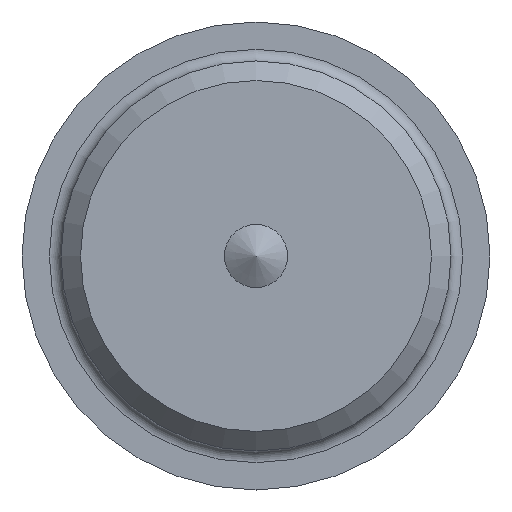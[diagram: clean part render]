
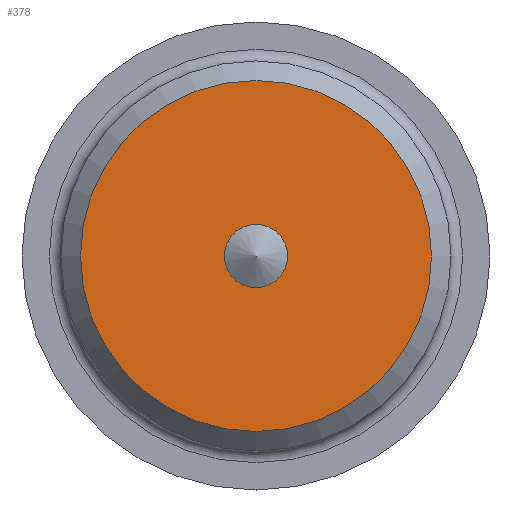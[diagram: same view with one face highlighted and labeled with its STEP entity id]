
A CAD part, left-side view. The second image highlights one B-rep face of the part: STEP entity #378.
In plain terms, the highlighted planar face has unit normal (-1, 0, 0).
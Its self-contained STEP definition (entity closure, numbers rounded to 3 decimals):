
#22=FACE_BOUND('',#94,.T.);
#30=PLANE('',#452);
#65=FACE_OUTER_BOUND('',#93,.T.);
#93=EDGE_LOOP('',(#339));
#94=EDGE_LOOP('',(#340));
#163=CIRCLE('',#449,1.621);
#164=CIRCLE('',#451,9.);
#196=VERTEX_POINT('',#714);
#197=VERTEX_POINT('',#718);
#243=EDGE_CURVE('',#196,#196,#163,.T.);
#246=EDGE_CURVE('',#197,#197,#164,.T.);
#339=ORIENTED_EDGE('',*,*,#246,.F.);
#340=ORIENTED_EDGE('',*,*,#243,.T.);
#378=ADVANCED_FACE('',(#65,#22),#30,.T.);
#449=AXIS2_PLACEMENT_3D('',#715,#563,#564);
#451=AXIS2_PLACEMENT_3D('',#720,#569,#570);
#452=AXIS2_PLACEMENT_3D('',#721,#571,#572);
#563=DIRECTION('center_axis',(1.,0.,0.));
#564=DIRECTION('ref_axis',(0.,0.,1.));
#569=DIRECTION('center_axis',(1.,0.,0.));
#570=DIRECTION('ref_axis',(0.,0.,1.));
#571=DIRECTION('center_axis',(-1.,0.,0.));
#572=DIRECTION('ref_axis',(0.,0.,1.));
#714=CARTESIAN_POINT('',(-62.5,0.,-1.621));
#715=CARTESIAN_POINT('Origin',(-62.5,0.,0.));
#718=CARTESIAN_POINT('',(-62.5,0.,-9.));
#720=CARTESIAN_POINT('Origin',(-62.5,0.,0.));
#721=CARTESIAN_POINT('Origin',(-62.5,0.,-5.));
